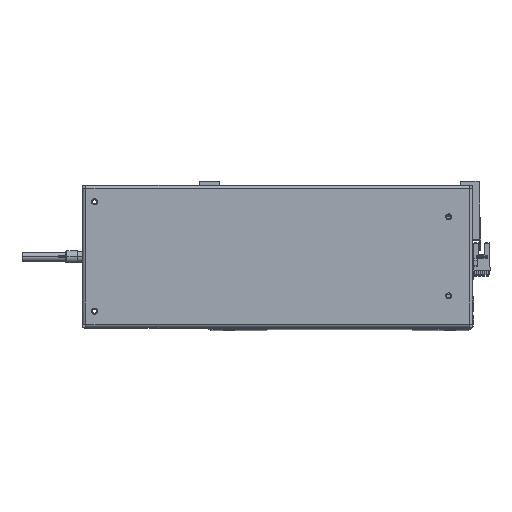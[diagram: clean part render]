
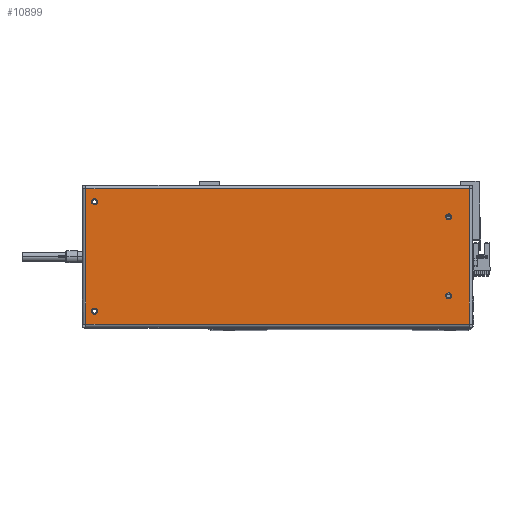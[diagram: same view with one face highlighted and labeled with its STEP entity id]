
A CAD part, top view. The second image highlights one B-rep face of the part: STEP entity #10899.
In plain terms, the highlighted planar face has unit normal (0, 0, 1).
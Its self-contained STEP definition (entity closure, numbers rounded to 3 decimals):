
#1364 = CARTESIAN_POINT ( 'NONE',  ( 157.6, -55.6, 0. ) ) ;
#1378 = ORIENTED_EDGE ( 'NONE', *, *, #10668, .T. ) ;
#1515 = VECTOR ( 'NONE', #13003, 1000. ) ;
#1529 = ORIENTED_EDGE ( 'NONE', *, *, #23522, .F. ) ;
#1931 = DIRECTION ( 'NONE',  ( 1., 0., 0. ) ) ;
#1962 = DIRECTION ( 'NONE',  ( 0., -1., 0. ) ) ;
#2183 = ORIENTED_EDGE ( 'NONE', *, *, #34336, .F. ) ;
#2335 = EDGE_LOOP ( 'NONE', ( #34593, #20621 ) ) ;
#2853 = CARTESIAN_POINT ( 'NONE',  ( -143., 32.5, 0. ) ) ;
#2956 = CIRCLE ( 'NONE', #6425, 2.5 ) ;
#3144 = CIRCLE ( 'NONE', #30736, 2.5 ) ;
#4164 = VECTOR ( 'NONE', #7251, 1000. ) ;
#4771 = CARTESIAN_POINT ( 'NONE',  ( -157.6, 55.6, 0. ) ) ;
#4772 = ORIENTED_EDGE ( 'NONE', *, *, #13985, .F. ) ;
#4787 = DIRECTION ( 'NONE',  ( 0., 0., 1. ) ) ;
#5757 = VERTEX_POINT ( 'NONE', #7464 ) ;
#5759 = DIRECTION ( 'NONE',  ( 0., 0., 1. ) ) ;
#6062 = FACE_BOUND ( 'NONE', #32068, .T. ) ;
#6164 = DIRECTION ( 'NONE',  ( 0., 0., 1. ) ) ;
#6425 = AXIS2_PLACEMENT_3D ( 'NONE', #37641, #10965, #31699 ) ;
#6452 = DIRECTION ( 'NONE',  ( 1., 0., 0. ) ) ;
#7251 = DIRECTION ( 'NONE',  ( 1., 0., 0. ) ) ;
#7458 = FACE_BOUND ( 'NONE', #2335, .T. ) ;
#7464 = CARTESIAN_POINT ( 'NONE',  ( -157.6, -55.6, 0. ) ) ;
#7479 = VERTEX_POINT ( 'NONE', #20616 ) ;
#7886 = VECTOR ( 'NONE', #37353, 1000. ) ;
#8591 = DIRECTION ( 'NONE',  ( 0., 0., -1. ) ) ;
#8743 = DIRECTION ( 'NONE',  ( 1., 0., 0. ) ) ;
#9140 = VERTEX_POINT ( 'NONE', #32628 ) ;
#9154 = CARTESIAN_POINT ( 'NONE',  ( -138., -32.5, 0. ) ) ;
#9871 = CARTESIAN_POINT ( 'NONE',  ( 157.6, 55.6, 0. ) ) ;
#10604 = DIRECTION ( 'NONE',  ( 0., 0., 1. ) ) ;
#10668 = EDGE_CURVE ( 'NONE', #9140, #37731, #23307, .T. ) ;
#10899 = ADVANCED_FACE ( 'NONE', ( #7458, #6062, #28368, #28806, #38057 ), #26410, .F. ) ;
#10965 = DIRECTION ( 'NONE',  ( 0., 0., 1. ) ) ;
#11213 = VERTEX_POINT ( 'NONE', #27438 ) ;
#11857 = CARTESIAN_POINT ( 'NONE',  ( 153., -45., 0. ) ) ;
#12175 = VERTEX_POINT ( 'NONE', #36138 ) ;
#12453 = VERTEX_POINT ( 'NONE', #23686 ) ;
#13003 = DIRECTION ( 'NONE',  ( -1., 0., 0. ) ) ;
#13383 = EDGE_LOOP ( 'NONE', ( #2183, #1529 ) ) ;
#13985 = EDGE_CURVE ( 'NONE', #18887, #12453, #15887, .T. ) ;
#14897 = ORIENTED_EDGE ( 'NONE', *, *, #31480, .T. ) ;
#15152 = CIRCLE ( 'NONE', #30228, 2.5 ) ;
#15234 = DIRECTION ( 'NONE',  ( 1., 0., 0. ) ) ;
#15887 = CIRCLE ( 'NONE', #21173, 2.5 ) ;
#16010 = EDGE_CURVE ( 'NONE', #35539, #12175, #18155, .T. ) ;
#16364 = VERTEX_POINT ( 'NONE', #31827 ) ;
#16905 = ORIENTED_EDGE ( 'NONE', *, *, #21610, .T. ) ;
#18155 = CIRCLE ( 'NONE', #19466, 2.5 ) ;
#18449 = EDGE_CURVE ( 'NONE', #16364, #11213, #15152, .T. ) ;
#18816 = EDGE_LOOP ( 'NONE', ( #36453, #25104 ) ) ;
#18887 = VERTEX_POINT ( 'NONE', #2853 ) ;
#19466 = AXIS2_PLACEMENT_3D ( 'NONE', #19598, #10604, #37409 ) ;
#19598 = CARTESIAN_POINT ( 'NONE',  ( -140.5, -32.5, 0. ) ) ;
#19661 = EDGE_CURVE ( 'NONE', #12175, #35539, #2956, .T. ) ;
#20616 = CARTESIAN_POINT ( 'NONE',  ( 148., -45., 0. ) ) ;
#20621 = ORIENTED_EDGE ( 'NONE', *, *, #19661, .F. ) ;
#21016 = EDGE_CURVE ( 'NONE', #11213, #16364, #24313, .T. ) ;
#21173 = AXIS2_PLACEMENT_3D ( 'NONE', #22609, #4787, #1931 ) ;
#21608 = CARTESIAN_POINT ( 'NONE',  ( 157.7, 55.6, 0. ) ) ;
#21610 = EDGE_CURVE ( 'NONE', #22658, #5757, #24526, .T. ) ;
#22609 = CARTESIAN_POINT ( 'NONE',  ( -140.5, 32.5, 0. ) ) ;
#22658 = VERTEX_POINT ( 'NONE', #4771 ) ;
#23307 = LINE ( 'NONE', #1364, #7886 ) ;
#23522 = EDGE_CURVE ( 'NONE', #7479, #33567, #23954, .T. ) ;
#23686 = CARTESIAN_POINT ( 'NONE',  ( -138., 32.5, 0. ) ) ;
#23761 = AXIS2_PLACEMENT_3D ( 'NONE', #38392, #8591, #34935 ) ;
#23954 = CIRCLE ( 'NONE', #27388, 2.5 ) ;
#23980 = CARTESIAN_POINT ( 'NONE',  ( 150.5, -45., 0. ) ) ;
#24255 = DIRECTION ( 'NONE',  ( 0., 0., 1. ) ) ;
#24306 = LINE ( 'NONE', #21608, #1515 ) ;
#24313 = CIRCLE ( 'NONE', #26821, 2.5 ) ;
#24360 = ORIENTED_EDGE ( 'NONE', *, *, #28234, .F. ) ;
#24526 = LINE ( 'NONE', #34885, #37406 ) ;
#24821 = CARTESIAN_POINT ( 'NONE',  ( -157.7, -55.6, 0. ) ) ;
#25104 = ORIENTED_EDGE ( 'NONE', *, *, #18449, .F. ) ;
#25537 = LINE ( 'NONE', #24821, #4164 ) ;
#26410 = PLANE ( 'NONE',  #23761 ) ;
#26821 = AXIS2_PLACEMENT_3D ( 'NONE', #30552, #24255, #6452 ) ;
#27388 = AXIS2_PLACEMENT_3D ( 'NONE', #23980, #6164, #33128 ) ;
#27413 = CARTESIAN_POINT ( 'NONE',  ( 150.5, 45., 0. ) ) ;
#27438 = CARTESIAN_POINT ( 'NONE',  ( 153., 45., 0. ) ) ;
#28144 = DIRECTION ( 'NONE',  ( 1., 0., 0. ) ) ;
#28234 = EDGE_CURVE ( 'NONE', #12453, #18887, #3144, .T. ) ;
#28368 = FACE_BOUND ( 'NONE', #13383, .T. ) ;
#28657 = ORIENTED_EDGE ( 'NONE', *, *, #34240, .T. ) ;
#28806 = FACE_BOUND ( 'NONE', #18816, .T. ) ;
#28910 = AXIS2_PLACEMENT_3D ( 'NONE', #31227, #36923, #28144 ) ;
#30228 = AXIS2_PLACEMENT_3D ( 'NONE', #27413, #36228, #15234 ) ;
#30552 = CARTESIAN_POINT ( 'NONE',  ( 150.5, 45., 0. ) ) ;
#30736 = AXIS2_PLACEMENT_3D ( 'NONE', #35334, #5759, #8743 ) ;
#31227 = CARTESIAN_POINT ( 'NONE',  ( 150.5, -45., 0. ) ) ;
#31480 = EDGE_CURVE ( 'NONE', #37731, #22658, #24306, .T. ) ;
#31699 = DIRECTION ( 'NONE',  ( 1., 0., 0. ) ) ;
#31827 = CARTESIAN_POINT ( 'NONE',  ( 148., 45., 0. ) ) ;
#32068 = EDGE_LOOP ( 'NONE', ( #24360, #4772 ) ) ;
#32628 = CARTESIAN_POINT ( 'NONE',  ( 157.6, -55.6, 0. ) ) ;
#33128 = DIRECTION ( 'NONE',  ( 1., 0., 0. ) ) ;
#33567 = VERTEX_POINT ( 'NONE', #11857 ) ;
#34240 = EDGE_CURVE ( 'NONE', #5757, #9140, #25537, .T. ) ;
#34336 = EDGE_CURVE ( 'NONE', #33567, #7479, #37517, .T. ) ;
#34593 = ORIENTED_EDGE ( 'NONE', *, *, #16010, .F. ) ;
#34885 = CARTESIAN_POINT ( 'NONE',  ( -157.6, 55.6, 0. ) ) ;
#34935 = DIRECTION ( 'NONE',  ( -1., 0., 0. ) ) ;
#35334 = CARTESIAN_POINT ( 'NONE',  ( -140.5, 32.5, 0. ) ) ;
#35539 = VERTEX_POINT ( 'NONE', #9154 ) ;
#36138 = CARTESIAN_POINT ( 'NONE',  ( -143., -32.5, 0. ) ) ;
#36228 = DIRECTION ( 'NONE',  ( 0., 0., 1. ) ) ;
#36453 = ORIENTED_EDGE ( 'NONE', *, *, #21016, .F. ) ;
#36923 = DIRECTION ( 'NONE',  ( 0., 0., 1. ) ) ;
#37145 = EDGE_LOOP ( 'NONE', ( #16905, #28657, #1378, #14897 ) ) ;
#37353 = DIRECTION ( 'NONE',  ( 0., 1., 0. ) ) ;
#37406 = VECTOR ( 'NONE', #1962, 1000. ) ;
#37409 = DIRECTION ( 'NONE',  ( 1., 0., 0. ) ) ;
#37517 = CIRCLE ( 'NONE', #28910, 2.5 ) ;
#37641 = CARTESIAN_POINT ( 'NONE',  ( -140.5, -32.5, 0. ) ) ;
#37731 = VERTEX_POINT ( 'NONE', #9871 ) ;
#38057 = FACE_OUTER_BOUND ( 'NONE', #37145, .T. ) ;
#38392 = CARTESIAN_POINT ( 'NONE',  ( 157.7, 58.5, 0. ) ) ;
